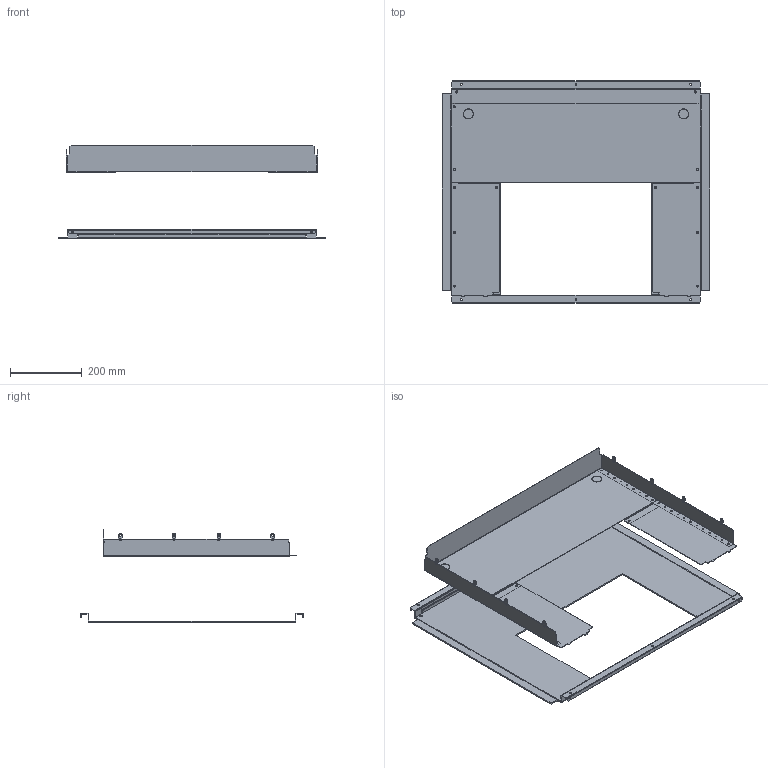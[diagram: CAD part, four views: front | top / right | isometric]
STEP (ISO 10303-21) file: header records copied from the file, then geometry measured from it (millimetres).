
FILE_DESCRIPTION(('CAx-IF Rec.Pracs.---Model Styling and Organization---1.2---2011-12-15','CAx-IF Rec.Pracs.---Geometric and Assembly Validation Properties---4.1---2014-06-16','CAx-IF Rec.Pracs.---PMI Polyline Presentation---2.0---2013-05-24'),'2;1');
FILE_NAME('R5FRC7V811224P.stp','2021-07-29T02:06:46+03:00',(''),(''),'STEP Interface 4.4 by CT CoreTechnologie','3D_Evolution4.4 by CT CoreTechnologie','');
FILE_SCHEMA(('AUTOMOTIVE_DESIGN { 1 0 10303 214 1 1 1 1 }'));
Length unit declared in the file: millimetre
Products named in the file (1): R5FRC6V811224P
Bounding box: 745 x 621 x 262 mm (x, y, z)
Surface area: 1490049.6 mm2 (no closed solid volume)
Topology: 0 solids, 9 shells, 590 faces, 1676 edges, 1104 vertices
Faces by surface type: plane 354, cylinder 236
Entity records: 19662 total; most frequent: CARTESIAN_POINT 3371, ORIENTED_EDGE 3352, DIRECTION 3330, EDGE_CURVE 1676, VECTOR 1204, LINE 1204, VERTEX_POINT 1104, AXIS2_PLACEMENT_3D 1063
